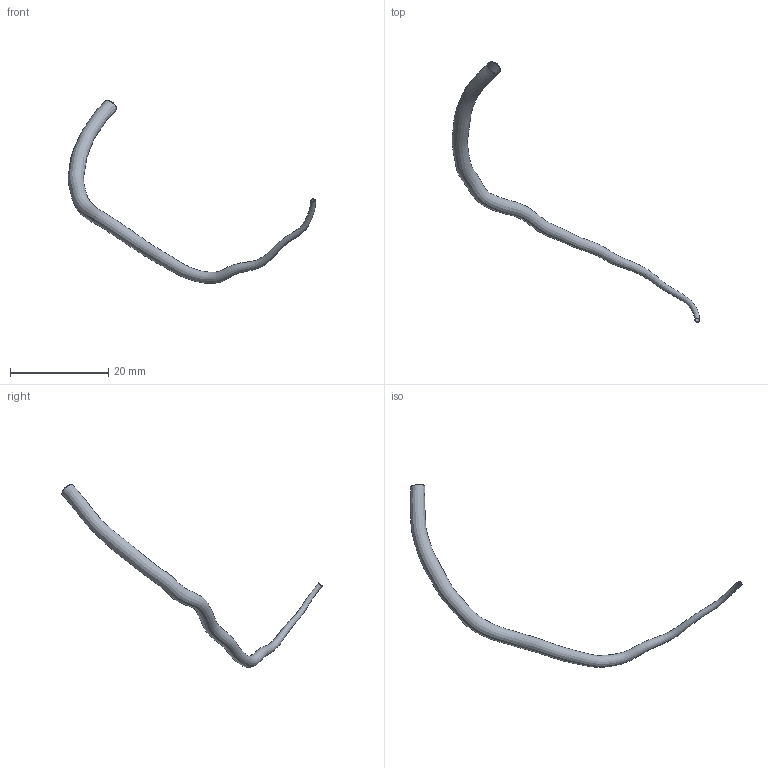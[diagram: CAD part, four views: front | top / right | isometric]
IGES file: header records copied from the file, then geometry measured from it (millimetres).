
Global section: file name: C:\Documents and Settings\Administrator\Desktop\FDA-Pig\Domestic LCA\Pig_000138\llad.seg.es.igs; native system: Rhinoceros ( May 19 2006 ); preprocessor: Trout Lake IGES 012 May 19 2006; date: 111205.184634; units: centimetre
Bounding box: 50.53 x 53.06 x 37.31 mm (x, y, z)
Surface area: 1455.4 mm2 (no closed solid volume)
Topology: 0 solids, 0 shells, 4 faces, 13 edges, 10 vertices
Faces by surface type: bspline 4
